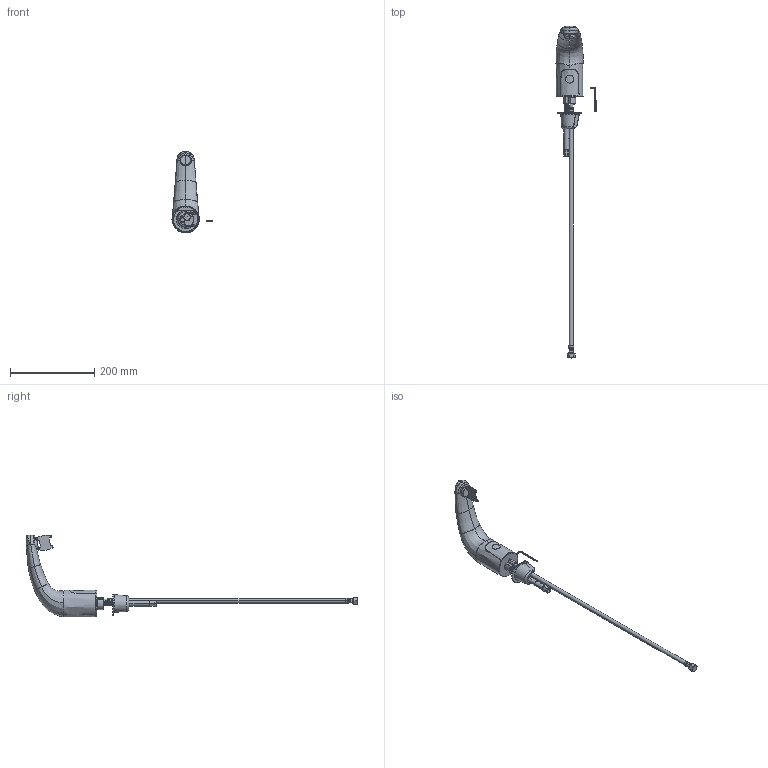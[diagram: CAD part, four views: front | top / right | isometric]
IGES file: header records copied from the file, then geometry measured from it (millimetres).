
Start section:  PTC IGES file: 116-201-ab-1t_REV062922.igs
Global section: file name: 116-201-ab-1t_REV062922.igs; native system: Creo Parametric by PTC Inc.; preprocessor: 2021184; author: rodjo; organization: Unknown; date: 20220629.085256; units: inch
Bounding box: 94.8 x 786.04 x 194.06 mm (x, y, z)
Surface area: 96419.6 mm2 (no closed solid volume)
Topology: 0 solids, 0 shells, 485 faces, 3904 edges, 5343 vertices
Faces by surface type: revolution 289, bspline 196
